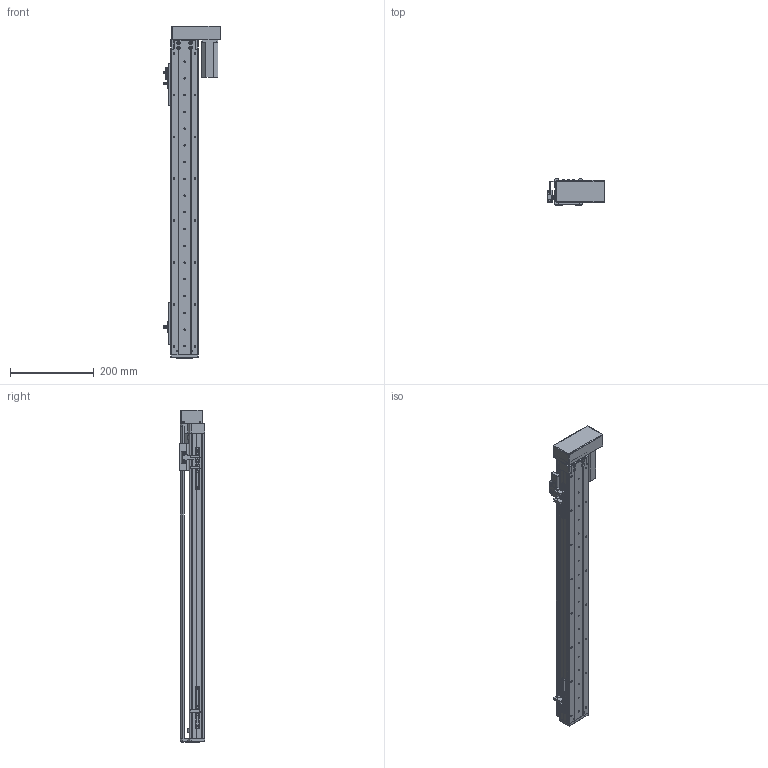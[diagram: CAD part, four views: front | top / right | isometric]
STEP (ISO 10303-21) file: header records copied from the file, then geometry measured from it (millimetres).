
FILE_DESCRIPTION (( 'STEP AP203' ), '1' );
FILE_NAME ('RY60-L1210-300-RK.SLDASM_600.step', '2021-02-20T06:52:43', ( '盈信电脑' ), ( '东莞市道滘镇水果街19号' ), 'SwSTEP 2.0', 'SolidWorks 2012', '' );
FILE_SCHEMA (( 'CONFIG_CONTROL_DESIGN' ));
Length unit declared in the file: millimetre
Products named in the file (13): RY80俋离覜茼え; 侂狟100W; RY60酘衵殏萇儂欶; RY60左右折电机安装板; RY60-L1210-300-RK.SLDASM_600; 覜茼ん672; 672嫖萇羲壽假蚾釱; RY60转折电机端支撑座; 滅袉蝶18-10; RY60-300倰第裔啣-RK_600; RY60綴裔啣; RY60臏賑輸; RY60-300倰第菁釱-RK_600
Assembly tree (18 placements, depth 2):
  RY60-L1210-300-RK.SLDASM_600
    RY60-300倰第菁釱-RK_600
    RY60臏賑輸
    RY60-300倰第裔啣-RK_600
    RY60綴裔啣
    滅袉蝶18-10  x4
    RY60转折电机端支撑座
    RY60左右折电机安装板
    侂狟100W
    RY60酘衵殏萇儂欶
    RY80俋离覜茼え
    672嫖萇羲壽假蚾釱  x2
    覜茼ん672  x3
Bounding box: 137.9 x 61 x 793 mm (x, y, z)
Volume: 1010277 mm3; surface area: 514268.7 mm2
Topology: 18 solids, 18 shells, 1476 faces, 4142 edges, 2654 vertices
Faces by surface type: plane 729, cylinder 620, cone 110, bspline 17
Entity records: 44613 total; most frequent: CARTESIAN_POINT 10773, ORIENTED_EDGE 6848, DIRECTION 6620, EDGE_CURVE 3424, AXIS2_PLACEMENT_3D 2271, VERTEX_POINT 2234, LINE 2078, VECTOR 2078
